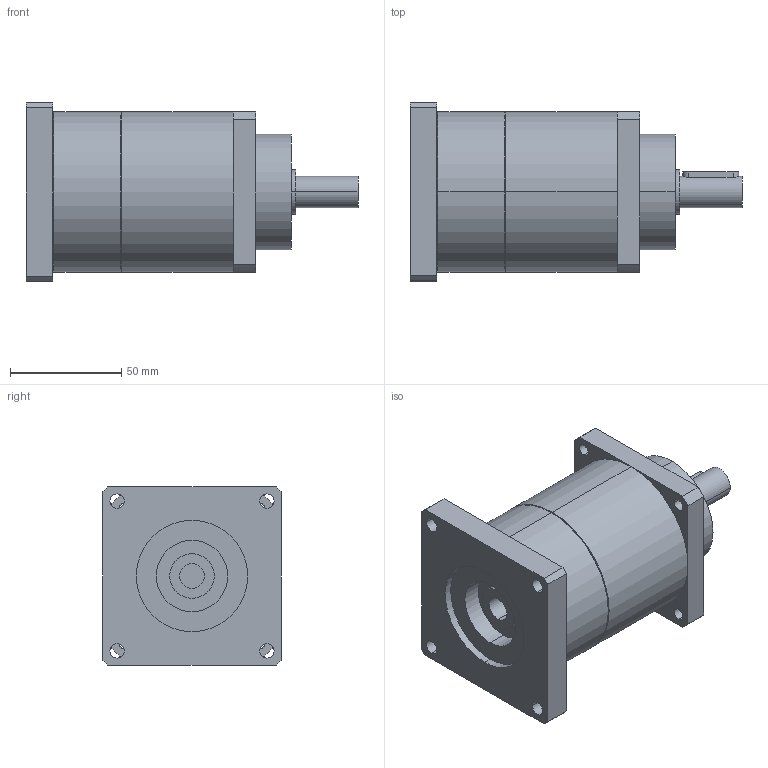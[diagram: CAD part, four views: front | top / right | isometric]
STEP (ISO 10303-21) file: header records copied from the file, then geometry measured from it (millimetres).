
FILE_DESCRIPTION(('CoCreate Modeling STEP Export'),'2;1');
FILE_NAME('GPT75_ig-9-12-16-20-25-28-35-40-50-70-100_14_B5T_11_P27.stp','2014-08-27T13:34:44',(''),(''),'CoCreate Modeling STEP processor for AP214 (Solid Model)','CoCreate Modeling 16.00C 25-Feb-2009 (C) Parametric Technology GmbH','');
FILE_SCHEMA(('AUTOMOTIVE_DESIGN { 1 0 10303 214 1 1 1 1 }'));
Length unit declared in the file: millimetre
Products named in the file (2): GPT75_ig-9-12-16-20-25-28-35-40-50-70-100_14_B5T_11_P27
Assembly tree (1 placements, depth 2):
  GPT75_ig-9-12-16-20-25-28-35-40-50-70-100_14_B5T_11_P27
    GPT75_ig-9-12-16-20-25-28-35-40-50-70-100_14_B5T_11_P27
Bounding box: 149 x 80 x 80 mm (x, y, z)
Volume: 478765.8 mm3; surface area: 48406.7 mm2
Topology: 1 solids, 1 shells, 77 faces, 191 edges, 126 vertices
Faces by surface type: cylinder 46, plane 27, cone 4
Entity records: 2469 total; most frequent: CARTESIAN_POINT 716, ORIENTED_EDGE 382, DIRECTION 320, EDGE_CURVE 191, VERTEX_POINT 126, AXIS2_PLACEMENT_3D 118, EDGE_LOOP 103, VECTOR 84
